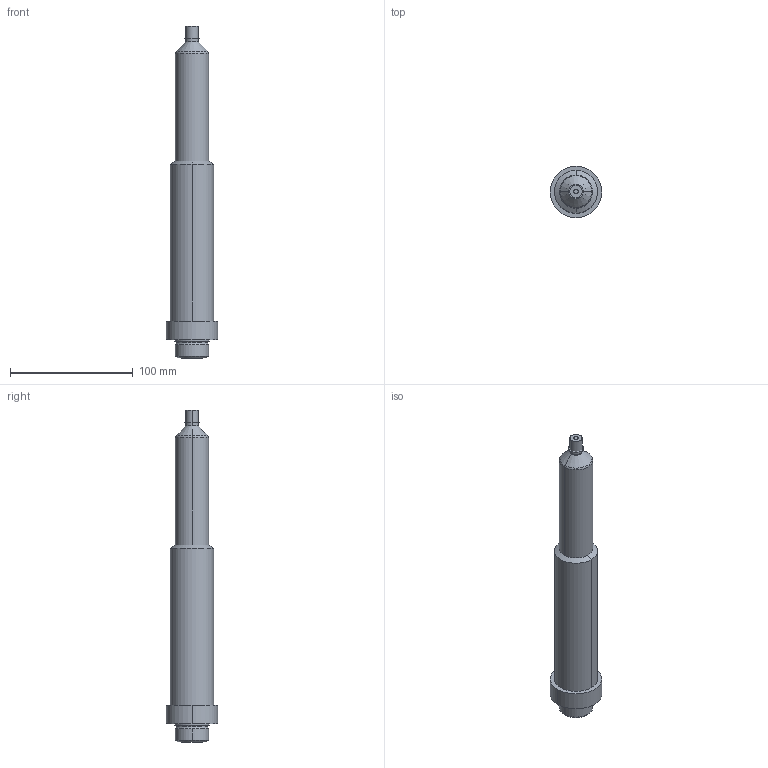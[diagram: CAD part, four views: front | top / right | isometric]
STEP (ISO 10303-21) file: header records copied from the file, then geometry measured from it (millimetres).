
FILE_DESCRIPTION (( 'STEP AP214' ), '1' );
FILE_NAME ('09EX12-03-245-##P.step', '2023-04-19T08:36:24', ( '' ), ( '' ), 'SwSTEP 2.0', 'SolidWorks 2018', '' );
FILE_SCHEMA (( 'AUTOMOTIVE_DESIGN' ));
Length unit declared in the file: millimetre
Products named in the file (1): 09EX12-03-245-##P
Bounding box: 42 x 42 x 270 mm (x, y, z)
Surface area: 91095.1 mm2 (no closed solid volume)
Topology: 0 solids, 5 shells, 492 faces, 1269 edges, 789 vertices
Faces by surface type: cylinder 203, plane 156, torus 69, cone 52, bspline 6, sphere 6
Entity records: 24528 total; most frequent: CARTESIAN_POINT 6883, DIRECTION 2681, ORIENTED_EDGE 2528, EDGE_CURVE 1265, AXIS2_PLACEMENT_3D 1057, VERTEX_POINT 787, CIRCLE 570, VECTOR 567
